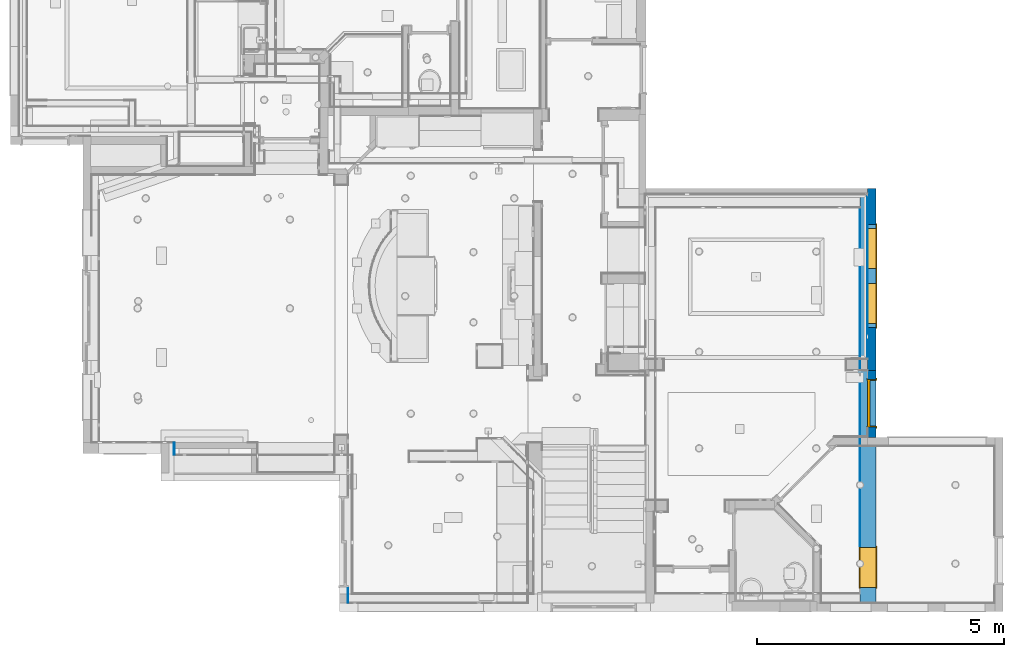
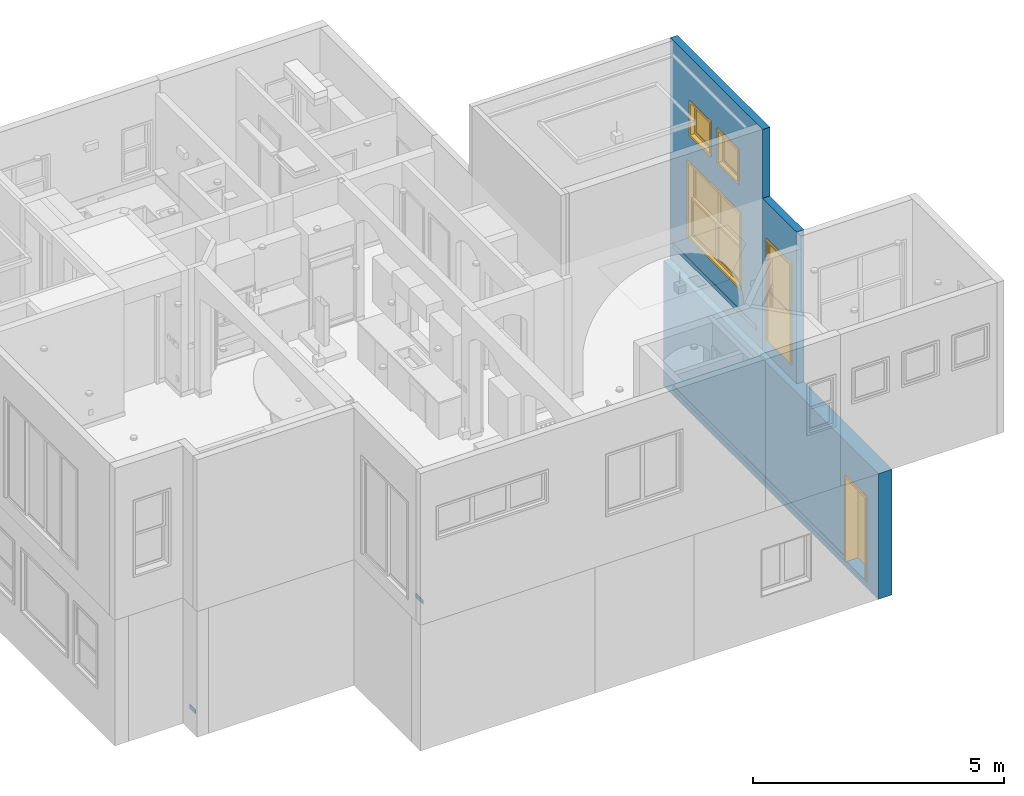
# One storey, part 14 of 60: 7 walls, 3 windows, 2 doors, 5 openings.
"""IFC2X3 building model written with IfcOpenShell, lengths in feet."""

from ifc_helpers import new_model, entity, si_unit, converted_unit, direction, frame, frame_2d, origin, origin_2d_with_axis, place, context, subcontext, project, spatial, polyline, rectangle, outline, extrude, clip, bounded_halfspace, source, transform, mapped, material, material_list, layer, layer_set, layer_usage, type_object, type_shapes, element, fill, save


model = new_model("IFC2X3")

# Units and contexts
model_context = context("Model", 3, precision=0.0001, world=origin(), true_north=direction((6.123031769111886e-17, 1.0)))
plan_context = context("Plan", 3, precision=0.0001, world=origin(), true_north=direction((6.123031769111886e-17, 1.0)))
body_context = subcontext(model_context, "Body", "Model", "MODEL_VIEW")
ifc_project = project(units=[converted_unit("LENGTHUNIT", "FOOT", entity("IfcLengthMeasure", 0.3048), si_unit("LENGTHUNIT", "METRE"), dimensions=[1, 0, 0, 0, 0, 0, 0]), converted_unit("AREAUNIT", "SQUARE FOOT", entity("IfcAreaMeasure", 0.09290304), si_unit("AREAUNIT", "SQUARE_METRE"), dimensions=[2, 0, 0, 0, 0, 0, 0]), converted_unit("PLANEANGLEUNIT", "DEGREE", entity("IfcPlaneAngleMeasure", 0.017453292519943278), si_unit("PLANEANGLEUNIT", "RADIAN"), dimensions=[0, 0, 0, 0, 0, 0, 0])], contexts=[model_context, plan_context])

# Site, building, storey
site_placement = place(None, origin())
site = spatial("IfcSite", under=ifc_project, at=site_placement, Name="Default", CompositionType="ELEMENT")
building_placement = place(site_placement, origin())
building = spatial("IfcBuilding", under=site, at=building_placement, CompositionType="ELEMENT")
storey_placement = place(building_placement, origin())
storey = spatial("IfcBuildingStorey", under=building, at=storey_placement, Name="First floor", CompositionType="ELEMENT", Elevation=0.0)

# Wall, opening, door
ifc_material_1 = material(Name="Default New Material")
ifc_layer_1 = layer(ifc_material_1, 0.5416666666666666)
ifc_layer_set_1 = layer_set([ifc_layer_1], Name="Basic Wall:Wall_6.5\"")
ifc_layer_usage_1 = layer_usage(ifc_layer_set_1, "AXIS2", "POSITIVE", -0.2708333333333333)
wall_type_1 = type_object("IfcWallType", Name="Basic Wall:Wall_6.5\"", PredefinedType="STANDARD", material=ifc_layer_set_1)
wall_1_placement = place(storey_placement, frame((35.39583333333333, 11.562500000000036, 9.541666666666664), z_axis=(0.0, 0.0, 1.0), x_axis=(0.0, 1.0, 0.0)))
wall_1 = element("IfcWallStandardCase", 1, at=wall_1_placement, inside=storey, type_object=wall_type_1, material=ifc_layer_usage_1, Name="Basic Wall:Wall_6.5\"", ObjectType="Basic Wall:Wall_6.5\"", context=body_context, shape_type="SweptSolid", body=[
    extrude(rectangle(XDim=4.458333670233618, YDim=0.5416666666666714, at=frame_2d((2.229166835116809, -2.220446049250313e-16), x_axis=(-1.0, 0.0))), origin(), (0.0, 0.0, 1.0), 12.125),
])
opening_1_placement = place(wall_1_placement, frame((0.6874999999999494, -0.27083333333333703, 1.1250000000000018)))
opening_1 = element("IfcOpeningElement", 2, at=opening_1_placement, cuts=wall_1, Name="C_Single Door Glass:3'-0\" X 8'-0\":1", ObjectType="Opening", context=body_context, shape_type="SweptSolid", body=[
    extrude(rectangle(XDim=3.166666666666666, YDim=8.083333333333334, at=frame_2d((4.041666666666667, 1.583333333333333), x_axis=(0.0, 1.0))), frame((0.0, 0.0, 0.0), z_axis=(0.0, 1.0, 0.0), x_axis=(0.0, 0.0, 1.0)), (0.0, 0.0, 1.0), 0.5416666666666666),
])
ifc_material_2 = material(Name="Glass")
ifc_material_list_1 = material_list([ifc_material_2, ifc_material_1])
door_style_1 = type_object("IfcDoorStyle", Name="C_Single Door Glass:3'-0\" X 8'-0\"", ConstructionType="NOTDEFINED", OperationType="SINGLE_SWING_RIGHT", ParameterTakesPrecedence=False, Sizeable=False, material=ifc_material_list_1)
shared_shape_1 = source(origin(), body_context, "Body", "SweptSolid", [
    extrude(rectangle(XDim=2.6666666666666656, YDim=0.04166666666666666, at=frame_2d((0.0, 1.3877787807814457e-17), x_axis=(1.0, 0.0))), frame((1.5833333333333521, 0.08333333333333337, 4.0), z_axis=(0.0, 0.0, 1.0), x_axis=(-1.0, 0.0, 0.0)), (0.0, 0.0, 1.0), 3.8333333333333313),
    extrude(outline(polyline([(-4.0, -1.4999999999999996), (4.0, -1.4999999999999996), (4.0, 1.4999999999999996), (-4.0, 1.4999999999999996), (-4.0, -1.4999999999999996)]), holes=[polyline([(-3.833333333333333, 1.3333333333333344), (0.0, 1.3333333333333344), (0.0, -1.3333333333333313), (-3.833333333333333, -1.3333333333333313), (-3.833333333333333, 1.3333333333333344)])]), frame((1.5833333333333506, 0.16666666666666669, 4.0), z_axis=(0.0, -1.0, 0.0), x_axis=(0.0, 0.0, -1.0)), (0.0, 0.0, 1.0), 0.16666666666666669),
    extrude(outline(polyline([(-3.958333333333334, 1.4999999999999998), (4.041666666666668, 1.4999999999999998), (4.041666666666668, 1.6666666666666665), (-4.125000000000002, 1.6666666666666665), (-4.125000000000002, -1.6666666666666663), (4.041666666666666, -1.6666666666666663), (4.041666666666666, -1.4999999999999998), (-3.958333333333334, -1.4999999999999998), (-3.958333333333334, 1.4999999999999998)])), frame((1.5833333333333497, 0.0, 4.041666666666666), z_axis=(0.0, -1.0, 0.0), x_axis=(0.0, 0.0, -1.0)), (0.0, 0.0, 1.0), 0.0625),
    extrude(outline(polyline([(-3.958333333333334, 1.4999999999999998), (4.041666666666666, 1.4999999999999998), (4.041666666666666, 1.6666666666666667), (-4.125, 1.6666666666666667), (-4.125, -1.6666666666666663), (4.041666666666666, -1.6666666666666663), (4.041666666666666, -1.5000000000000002), (-3.958333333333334, -1.5000000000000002), (-3.958333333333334, 1.4999999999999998)])), frame((1.5833333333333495, 0.6041666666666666, 4.041666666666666), z_axis=(0.0, -1.0, 0.0), x_axis=(0.0, 0.0, -1.0)), (0.0, 0.0, 1.0), 0.0625),
    extrude(outline(polyline([(1.4999999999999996, -4.020833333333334), (1.5833333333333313, -4.020833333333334), (1.5833333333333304, 4.062499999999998), (-1.5833333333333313, 4.0625), (-1.5833333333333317, -4.020833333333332), (-1.5, -4.020833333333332), (-1.5, 3.979166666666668), (1.4999999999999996, 3.979166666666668), (1.4999999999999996, -4.020833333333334)])), frame((1.58333333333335, 0.5416666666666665, 4.020833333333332), z_axis=(0.0, -1.0, 0.0), x_axis=(1.0, 0.0, 0.0)), (0.0, 0.0, 1.0), 0.5416666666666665),
])
type_shapes(door_style_1, [shared_shape_1])
door_1_placement = place(opening_1_placement, frame((3.166666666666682, 0.5416666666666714, 0.0), z_axis=(0.0, 0.0, 1.0), x_axis=(-1.0, 0.0, 0.0)))
door_1 = element("IfcDoor", 3, at=door_1_placement, inside=storey, type_object=door_style_1, material=ifc_material_list_1, Name="C_Single Door Glass:3'-0\" X 8'-0\"", ObjectType="C_Single Door Glass:3'-0\" X 8'-0\"", OverallHeight=8.083333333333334, OverallWidth=3.166666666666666, context=body_context, shape_type="MappedRepresentation", body=[
    mapped(shared_shape_1, transform((0.0, 0.0, 0.0), scale=1.0)),
])
fill(opening_1, door_1)

# Wall, openings, windows
ifc_layer_usage_2 = layer_usage(ifc_layer_set_1, "AXIS2", "POSITIVE", -0.2708333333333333)
wall_2_placement = place(storey_placement, frame((35.395833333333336, 16.020833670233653, 9.541666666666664), z_axis=(0.0, 0.0, 1.0), x_axis=(0.0, 1.0, 0.0)))
wall_2 = element("IfcWallStandardCase", 4, at=wall_2_placement, inside=storey, type_object=wall_type_1, material=ifc_layer_usage_2, Name="Basic Wall:Wall_6.5\"", ObjectType="Basic Wall:Wall_6.5\"", context=body_context, shape_type="SweptSolid", body=[
    extrude(rectangle(XDim=12.10416632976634, YDim=0.5416666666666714, at=frame_2d((6.05208316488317, 1.942890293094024e-16), x_axis=(-1.0, 0.0))), origin(), (0.0, 0.0, 1.0), 17.624999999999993),
])
opening_2_placement = place(wall_2_placement, frame((5.770833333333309, 0.2708333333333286, 11.458333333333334)))
opening_2 = element("IfcOpeningElement", 5, at=opening_2_placement, cuts=wall_2, Name="C_Single Window:2'-6\" X 2'-6\":1", ObjectType="Opening", context=body_context, shape_type="SweptSolid", body=[
    extrude(rectangle(XDim=2.666666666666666, YDim=2.666666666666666, at=frame_2d((1.333333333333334, 1.333333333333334), x_axis=(-1.0, 0.0))), frame((0.0, 0.0, 0.0), z_axis=(0.0, -1.0, 0.0), x_axis=(0.0, 0.0, 1.0)), (0.0, 0.0, 1.0), 0.5416666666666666),
])
opening_3_placement = place(wall_2_placement, frame((9.687540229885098, 0.27083333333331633, 3.20833333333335)))
opening_3 = element("IfcOpeningElement", 6, at=opening_3_placement, cuts=wall_2, Name="C_Double Window Guilotine:6'-8\" X 5'-10\":1", ObjectType="Opening", context=body_context, shape_type="SweptSolid", body=[
    extrude(rectangle(XDim=6.833333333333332, YDim=6.0, at=frame_2d((3.0, 3.416666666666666), x_axis=(0.0, -1.0))), frame((0.0, 0.0, 0.0), z_axis=(0.0, -1.0, 0.0), x_axis=(0.0, 0.0, 1.0)), (0.0, 0.0, 1.0), 0.5416666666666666),
])
opening_4_placement = place(wall_2_placement, frame((9.43421882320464, 0.2708333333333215, 11.458333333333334)))
opening_4 = element("IfcOpeningElement", 7, at=opening_4_placement, cuts=wall_2, Name="C_Single Window:2'-6\" X 2'-6\":1", ObjectType="Opening", context=body_context, shape_type="SweptSolid", body=[
    extrude(rectangle(XDim=2.666666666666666, YDim=2.666666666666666, at=frame_2d((1.333333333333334, 1.333333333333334), x_axis=(-1.0, 0.0))), frame((0.0, 0.0, 0.0), z_axis=(0.0, -1.0, 0.0), x_axis=(0.0, 0.0, 1.0)), (0.0, 0.0, 1.0), 0.5416666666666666),
])
ifc_material_list_2 = material_list([ifc_material_1, ifc_material_2])
window_style_1 = type_object("IfcWindowStyle", Name="C_Double Window Guilotine:6'-8\" X 5'-10\"", ConstructionType="NOTDEFINED", OperationType="NOTDEFINED", ParameterTakesPrecedence=False, Sizeable=False, material=ifc_material_list_2)
shared_shape_2 = source(origin(), body_context, "Body", "SweptSolid", [
    extrude(outline(polyline([(-1.666666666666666, -1.5000000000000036), (1.666666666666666, -1.5000000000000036), (1.666666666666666, 1.5000000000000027), (-1.666666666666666, 1.5000000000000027), (-1.666666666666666, -1.5000000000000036)]), holes=[polyline([(-1.4999999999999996, -1.3333333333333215), (-1.4999999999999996, 1.3333333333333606), (1.5, 1.3333333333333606), (1.5, -1.3333333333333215), (-1.4999999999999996, -1.3333333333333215)])]), frame((1.7500000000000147, 0.5000000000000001, 4.416666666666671), z_axis=(0.0, -1.0, 0.0), x_axis=(-1.0, 0.0, 0.0)), (0.0, 0.0, 1.0), 0.16666666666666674),
    extrude(rectangle(XDim=0.0416666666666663, YDim=0.0416666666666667, at=frame_2d((0.0, 2.0816681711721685e-17), x_axis=(1.0, 0.0))), frame((2.2500000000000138, 0.41666666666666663, 3.0833333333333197)), (0.0, 0.0, 1.0), 2.666666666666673),
    extrude(rectangle(XDim=0.04166666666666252, YDim=0.0416666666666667, at=frame_2d((2.220446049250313e-16, 2.0816681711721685e-17), x_axis=(1.0, 0.0))), frame((1.2500000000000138, 0.41666666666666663, 3.083333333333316)), (0.0, 0.0, 1.0), 2.6666666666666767),
    extrude(rectangle(XDim=3.0, YDim=0.041666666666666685, at=frame_2d((1.1102230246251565e-16, 0.0), x_axis=(1.0, 0.0))), frame((1.7500000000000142, 0.41666666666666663, 3.083333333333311)), (0.0, 0.0, 1.0), 2.666666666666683),
    extrude(rectangle(XDim=2.9999999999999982, YDim=0.04166666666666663, at=frame_2d((-1.1102230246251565e-16, 0.0), x_axis=(1.0, 0.0))), frame((1.7500000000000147, 0.25, 2.0069444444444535)), (0.0, 0.0, 1.0), 0.04166666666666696),
    extrude(rectangle(XDim=3.0, YDim=0.04166666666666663, at=origin_2d_with_axis()), frame((1.7500000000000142, 0.25, 1.118055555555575)), (0.0, 0.0, 1.0), 0.04166666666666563),
    extrude(rectangle(XDim=0.04166666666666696, YDim=0.04166666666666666, at=origin_2d_with_axis()), frame((2.2500000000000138, 0.25, 0.24999999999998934)), (0.0, 0.0, 1.0), 2.6666666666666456),
    extrude(rectangle(XDim=0.04166666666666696, YDim=0.04166666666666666, at=origin_2d_with_axis()), frame((1.2500000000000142, 0.25, 0.24999999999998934)), (0.0, 0.0, 1.0), 2.6666666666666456),
    extrude(rectangle(XDim=2.9999999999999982, YDim=0.04166666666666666, at=origin_2d_with_axis()), frame((1.7500000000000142, 0.25, 0.24999999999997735)), (0.0, 0.0, 1.0), 2.666666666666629),
    extrude(outline(polyline([(-1.5000000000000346, -1.6666666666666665), (1.5000000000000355, -1.6666666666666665), (1.5000000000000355, 1.6666666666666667), (-1.5000000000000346, 1.6666666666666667), (-1.5000000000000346, -1.6666666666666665)]), holes=[polyline([(-1.3333333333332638, 1.4999999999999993), (1.3333333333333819, 1.4999999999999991), (1.3333333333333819, -1.5000000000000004), (-1.3333333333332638, -1.4999999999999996), (-1.3333333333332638, 1.4999999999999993)])]), frame((1.750000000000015, 0.33333333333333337, 1.5833333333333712), z_axis=(0.0, -1.0, 0.0), x_axis=(0.0, 0.0, -1.0)), (0.0, 0.0, 1.0), 0.16666666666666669),
    extrude(rectangle(XDim=3.0000000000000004, YDim=0.0416666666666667, at=frame_2d((1.1102230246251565e-16, 2.0816681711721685e-17), x_axis=(1.0, 0.0))), frame((1.7500000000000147, 0.41666666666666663, 4.840277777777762)), (0.0, 0.0, 1.0), 0.04166666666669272),
    extrude(rectangle(XDim=3.0, YDim=0.0416666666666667, at=frame_2d((-1.1102230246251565e-16, 2.0816681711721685e-17), x_axis=(1.0, 0.0))), frame((1.7500000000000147, 0.41666666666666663, 3.951388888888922)), (0.0, 0.0, 1.0), 0.04166666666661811),
    extrude(outline(polyline([(-1.666666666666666, -1.5000000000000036), (1.666666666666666, -1.5000000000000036), (1.6666666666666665, 1.5000000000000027), (-1.666666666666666, 1.5000000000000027), (-1.666666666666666, -1.5000000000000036)]), holes=[polyline([(-1.4999999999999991, -1.3333333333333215), (-1.4999999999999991, 1.3333333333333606), (1.5, 1.3333333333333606), (1.5, -1.3333333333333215), (-1.4999999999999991, -1.3333333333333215)])]), frame((5.083333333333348, 0.5000000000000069, 4.416666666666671), z_axis=(0.0, -1.0, 0.0), x_axis=(-1.0, 0.0, 0.0)), (0.0, 0.0, 1.0), 0.16666666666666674),
    extrude(rectangle(XDim=0.041666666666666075, YDim=0.041666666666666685, at=frame_2d((0.0, 1.3877787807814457e-17), x_axis=(1.0, 0.0))), frame((5.583333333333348, 0.4166666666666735, 3.0833333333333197)), (0.0, 0.0, 1.0), 2.666666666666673),
    extrude(rectangle(XDim=0.041666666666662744, YDim=0.041666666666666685, at=frame_2d((-1.1102230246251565e-16, 1.3877787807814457e-17), x_axis=(1.0, 0.0))), frame((4.583333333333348, 0.4166666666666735, 3.083333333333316)), (0.0, 0.0, 1.0), 2.6666666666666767),
    extrude(rectangle(XDim=3.0000000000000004, YDim=0.041666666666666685, at=frame_2d((2.220446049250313e-16, 0.0), x_axis=(1.0, 0.0))), frame((5.083333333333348, 0.4166666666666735, 3.083333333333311)), (0.0, 0.0, 1.0), 2.666666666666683),
    extrude(rectangle(XDim=2.9999999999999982, YDim=0.04166666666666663, at=origin_2d_with_axis()), frame((5.083333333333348, 0.2500000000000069, 2.0069444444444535)), (0.0, 0.0, 1.0), 0.04166666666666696),
    extrude(rectangle(XDim=3.0, YDim=0.04166666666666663, at=origin_2d_with_axis()), frame((5.083333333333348, 0.2500000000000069, 1.118055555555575)), (0.0, 0.0, 1.0), 0.04166666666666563),
    extrude(rectangle(XDim=0.04166666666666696, YDim=0.04166666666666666, at=origin_2d_with_axis()), frame((5.583333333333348, 0.2500000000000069, 0.24999999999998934)), (0.0, 0.0, 1.0), 2.6666666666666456),
    extrude(rectangle(XDim=0.04166666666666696, YDim=0.04166666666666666, at=frame_2d((-1.1102230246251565e-16, 0.0), x_axis=(1.0, 0.0))), frame((4.583333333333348, 0.2500000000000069, 0.24999999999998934)), (0.0, 0.0, 1.0), 2.6666666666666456),
    extrude(rectangle(XDim=2.9999999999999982, YDim=0.04166666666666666, at=origin_2d_with_axis()), frame((5.083333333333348, 0.2500000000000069, 0.24999999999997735)), (0.0, 0.0, 1.0), 2.666666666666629),
    extrude(outline(polyline([(-1.5000000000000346, -1.6666666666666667), (1.5000000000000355, -1.6666666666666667), (1.5000000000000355, 1.6666666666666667), (-1.5000000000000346, 1.6666666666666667), (-1.5000000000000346, -1.6666666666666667)]), holes=[polyline([(-1.3333333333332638, 1.4999999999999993), (1.3333333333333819, 1.499999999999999), (1.3333333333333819, -1.5000000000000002), (-1.3333333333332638, -1.4999999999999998), (-1.3333333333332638, 1.4999999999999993)])]), frame((5.083333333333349, 0.3333333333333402, 1.5833333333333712), z_axis=(0.0, -1.0, 0.0), x_axis=(0.0, 0.0, -1.0)), (0.0, 0.0, 1.0), 0.16666666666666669),
    extrude(rectangle(XDim=3.0, YDim=0.041666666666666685, at=frame_2d((0.0, 1.3877787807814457e-17), x_axis=(1.0, 0.0))), frame((5.083333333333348, 0.4166666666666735, 4.840277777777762)), (0.0, 0.0, 1.0), 0.04166666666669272),
    extrude(rectangle(XDim=3.0, YDim=0.041666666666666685, at=frame_2d((0.0, 1.3877787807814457e-17), x_axis=(1.0, 0.0))), frame((5.083333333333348, 0.4166666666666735, 3.951388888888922)), (0.0, 0.0, 1.0), 0.04166666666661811),
    extrude(outline(polyline([(-3.500000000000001, -3.083333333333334), (3.500000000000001, -3.083333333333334), (3.500000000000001, 3.083333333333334), (-3.500000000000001, 3.083333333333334), (-3.500000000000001, -3.083333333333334)]), holes=[polyline([(-3.3333333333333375, -2.9166666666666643), (-3.333333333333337, 2.916666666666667), (3.3333333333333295, 2.916666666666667), (3.3333333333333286, -2.9166666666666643), (-3.3333333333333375, -2.9166666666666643)])]), frame((3.416666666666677, 0.0, 3.0), z_axis=(0.0, -1.0, 0.0), x_axis=(-1.0, 0.0, 0.0)), (0.0, 0.0, 1.0), 0.0625),
    extrude(outline(polyline([(-3.4999999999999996, -3.083333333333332), (3.4999999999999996, -3.083333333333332), (3.4999999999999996, 3.083333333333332), (-3.4999999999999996, 3.083333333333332), (-3.4999999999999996, -3.083333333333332)]), holes=[polyline([(-3.333333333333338, -2.916666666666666), (-3.3333333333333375, 2.916666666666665), (3.333333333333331, 2.916666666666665), (3.33333333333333, -2.916666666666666), (-3.333333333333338, -2.916666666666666)])]), frame((3.416666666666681, 0.6041666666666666, 3.0), z_axis=(0.0, -1.0, 0.0), x_axis=(-1.0, 0.0, 0.0)), (0.0, 0.0, 1.0), 0.0625),
    extrude(outline(polyline([(-3.0, -3.4166666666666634), (3.0, -3.416666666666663), (3.0, 3.4166666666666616), (-3.0, 3.4166666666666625), (-3.0, -3.4166666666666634)]), holes=[polyline([(-2.916666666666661, 3.333333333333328), (2.916666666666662, 3.333333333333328), (2.9166666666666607, -3.3333333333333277), (-2.916666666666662, -3.3333333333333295), (-2.916666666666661, 3.333333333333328)])]), frame((3.4166666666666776, 0.5416666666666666, 3.0), z_axis=(0.0, -1.0, 0.0), x_axis=(0.0, 0.0, -1.0)), (0.0, 0.0, 1.0), 0.5416666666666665),
])
type_shapes(window_style_1, [shared_shape_2])
window_1_placement = place(opening_3_placement, frame((0.0, 0.0, 0.0), z_axis=(0.0, 0.0, 1.0), x_axis=(-1.0, 0.0, 0.0)))
window_1 = element("IfcWindow", 8, at=window_1_placement, inside=storey, type_object=window_style_1, material=ifc_material_list_2, Name="C_Double Window Guilotine:6'-8\" X 5'-10\"", ObjectType="C_Double Window Guilotine:6'-8\" X 5'-10\"", OverallHeight=6.0, OverallWidth=6.833333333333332, context=body_context, shape_type="MappedRepresentation", body=[
    mapped(shared_shape_2, transform((0.0, 0.0, 0.0), scale=1.0)),
])
fill(opening_3, window_1)
window_style_2 = type_object("IfcWindowStyle", Name="C_Single Window:2'-6\" X 2'-6\"", ConstructionType="NOTDEFINED", OperationType="NOTDEFINED", ParameterTakesPrecedence=False, Sizeable=False, material=ifc_material_list_2)
shared_shape_3 = source(origin(), body_context, "Body", "SweptSolid", [
    extrude(rectangle(XDim=0.04166666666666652, YDim=0.04166666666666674, at=origin_2d_with_axis()), frame((1.6944444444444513, 0.33333333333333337, 0.24999999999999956), z_axis=(0.0, 0.0, 1.0), x_axis=(0.0, -1.0, 0.0)), (0.0, 0.0, 1.0), 2.1666666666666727),
    extrude(rectangle(XDim=0.04166666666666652, YDim=0.04166666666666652, at=origin_2d_with_axis()), frame((0.9722222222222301, 0.33333333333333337, 0.24999999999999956), z_axis=(0.0, 0.0, 1.0), x_axis=(0.0, -1.0, 0.0)), (0.0, 0.0, 1.0), 2.1666666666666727),
    extrude(rectangle(XDim=0.04166666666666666, YDim=2.1666666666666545, at=origin_2d_with_axis()), frame((1.3333333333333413, 0.3333333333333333, 0.951388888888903), z_axis=(0.0, 0.0, 1.0), x_axis=(0.0, 1.0, 0.0)), (0.0, 0.0, 1.0), 0.041666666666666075),
    extrude(rectangle(XDim=0.04166666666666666, YDim=2.166666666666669, at=origin_2d_with_axis()), frame((1.3333333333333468, 0.3333333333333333, 1.6736111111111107), z_axis=(0.0, 0.0, 1.0), x_axis=(0.0, 1.0, 0.0)), (0.0, 0.0, 1.0), 0.041666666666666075),
    extrude(rectangle(XDim=0.04166666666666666, YDim=2.166666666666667, at=origin_2d_with_axis()), frame((1.3333333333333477, 0.3333333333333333, 0.24999999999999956), z_axis=(0.0, 0.0, 1.0), x_axis=(0.0, 1.0, 0.0)), (0.0, 0.0, 1.0), 2.1666666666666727),
    extrude(outline(polyline([(-1.2500000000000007, -1.2500000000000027), (1.2500000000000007, -1.2500000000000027), (1.2500000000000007, 1.2500000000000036), (-1.2500000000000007, 1.2500000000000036), (-1.2500000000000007, -1.2500000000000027)]), holes=[polyline([(1.0833333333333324, -1.0833333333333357), (-1.0833333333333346, -1.0833333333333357), (-1.0833333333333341, 1.083333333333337), (1.0833333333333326, 1.083333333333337), (1.0833333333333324, -1.0833333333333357)])]), frame((1.3333333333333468, 0.4166666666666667, 1.3333333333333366), z_axis=(0.0, -1.0, 0.0), x_axis=(-1.0, 0.0, 0.0)), (0.0, 0.0, 1.0), 0.16666666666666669),
    extrude(outline(polyline([(-1.4166666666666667, -1.4166666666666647), (1.4166666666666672, -1.4166666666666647), (1.4166666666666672, 1.4166666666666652), (-1.416666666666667, 1.4166666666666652), (-1.4166666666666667, -1.4166666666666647)]), holes=[polyline([(-1.2500000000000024, -1.2500000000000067), (-1.2500000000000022, 1.2499999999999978), (1.2499999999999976, 1.2499999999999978), (1.2499999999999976, -1.2500000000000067), (-1.2500000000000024, -1.2500000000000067)])]), frame((1.3333333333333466, 0.0, 1.3333333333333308), z_axis=(0.0, -1.0, 0.0), x_axis=(-1.0, 0.0, 0.0)), (0.0, 0.0, 1.0), 0.0625),
    extrude(outline(polyline([(-1.4166666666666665, -1.416666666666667), (1.4166666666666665, -1.416666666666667), (1.4166666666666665, 1.4166666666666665), (-1.4166666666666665, 1.4166666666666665), (-1.4166666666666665, -1.416666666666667)]), holes=[polyline([(-1.2500000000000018, -1.25), (-1.250000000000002, 1.25), (1.2499999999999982, 1.25), (1.2499999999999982, -1.25), (-1.2500000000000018, -1.25)])]), frame((1.3333333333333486, 0.6041666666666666, 1.333333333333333), z_axis=(0.0, -1.0, 0.0), x_axis=(-1.0, 0.0, 0.0)), (0.0, 0.0, 1.0), 0.0625),
    extrude(outline(polyline([(-1.3333333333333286, -1.3333333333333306), (1.3333333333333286, -1.3333333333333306), (1.3333333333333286, 1.3333333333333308), (-1.3333333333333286, 1.3333333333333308), (-1.3333333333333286, -1.3333333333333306)]), holes=[polyline([(-1.2499999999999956, 1.2499999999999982), (1.2499999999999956, 1.2499999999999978), (1.2499999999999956, -1.2499999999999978), (-1.2499999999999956, -1.2499999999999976), (-1.2499999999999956, 1.2499999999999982)])]), frame((1.3333333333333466, 0.5416666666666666, 1.3333333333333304), z_axis=(0.0, -1.0, 0.0), x_axis=(0.0, 0.0, -1.0)), (0.0, 0.0, 1.0), 0.5416666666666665),
])
type_shapes(window_style_2, [shared_shape_3])
window_2_placement = place(opening_2_placement, frame((0.0, 0.0, 0.0), z_axis=(0.0, 0.0, 1.0), x_axis=(-1.0, 0.0, 0.0)))
window_2 = element("IfcWindow", 9, at=window_2_placement, inside=storey, type_object=window_style_2, material=ifc_material_list_2, Name="C_Single Window:2'-6\" X 2'-6\"", ObjectType="C_Single Window:2'-6\" X 2'-6\"", OverallHeight=2.6666666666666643, OverallWidth=2.6666666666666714, context=body_context, shape_type="MappedRepresentation", body=[
    mapped(shared_shape_3, transform((0.0, 0.0, 0.0), scale=1.0)),
])
fill(opening_2, window_2)
window_3_placement = place(opening_4_placement, frame((0.0, 0.0, 0.0), z_axis=(0.0, 0.0, 1.0), x_axis=(-1.0, 0.0, 0.0)))
window_3 = element("IfcWindow", 10, at=window_3_placement, inside=storey, type_object=window_style_2, material=ifc_material_list_2, Name="C_Single Window:2'-6\" X 2'-6\"", ObjectType="C_Single Window:2'-6\" X 2'-6\"", OverallHeight=2.6666666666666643, OverallWidth=2.6666666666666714, context=body_context, shape_type="MappedRepresentation", body=[
    mapped(shared_shape_3, transform((0.0, 0.0, 0.0), scale=1.0)),
])
fill(opening_4, window_3)

# Wall, opening, door
ifc_layer_2 = layer(ifc_material_1, 1.0416666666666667)
ifc_layer_set_2 = layer_set([ifc_layer_2], Name="Basic Wall:Wall_1'1/2\"")
ifc_layer_usage_3 = layer_usage(ifc_layer_set_2, "AXIS2", "POSITIVE", -0.5208333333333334)
wall_type_2 = type_object("IfcWallType", Name="Basic Wall:Wall_1'1/2\"", PredefinedType="STANDARD", material=ifc_layer_set_2)
wall_3_placement = place(storey_placement, frame((35.14583333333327, 0.0, -0.5), z_axis=(0.0, 0.0, 1.0), x_axis=(0.0, 1.0, 0.0)))
wall_3 = element("IfcWallStandardCase", 11, at=wall_3_placement, inside=storey, type_object=wall_type_2, material=ifc_layer_usage_3, Name="Basic Wall:Wall_1'1/2\"", ObjectType="Basic Wall:Wall_1'1/2\"", context=body_context, shape_type="SweptSolid", body=[
    extrude(rectangle(XDim=28.12500000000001, YDim=1.0416666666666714, at=frame_2d((14.062500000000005, 0.0), x_axis=(-1.0, 0.0))), origin(), (0.0, 0.0, 1.0), 10.041666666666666),
])
opening_5_placement = place(wall_3_placement, frame((4.249999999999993, 0.5208333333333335, 0.5)))
opening_5 = element("IfcOpeningElement", 12, at=opening_5_placement, cuts=wall_3, Name="C_Single Door:2'-6\" X 6'-8\":1", ObjectType="Opening", context=body_context, shape_type="SweptSolid", body=[
    extrude(rectangle(XDim=2.666666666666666, YDim=6.75, at=frame_2d((3.375, 1.3333333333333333), x_axis=(0.0, -1.0))), frame((0.0, 0.0, 0.0), z_axis=(0.0, -1.0, 0.0), x_axis=(0.0, 0.0, 1.0)), (0.0, 0.0, 1.0), 1.0416666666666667),
])
door_style_2 = type_object("IfcDoorStyle", Name="C_Single Door:2'-6\" X 6'-8\"", ConstructionType="NOTDEFINED", OperationType="SINGLE_SWING_LEFT", ParameterTakesPrecedence=False, Sizeable=False, material=ifc_material_1)
shared_shape_4 = source(origin(), body_context, "Body", "SweptSolid", [
    extrude(rectangle(XDim=0.16666666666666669, YDim=2.499999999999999, at=frame_2d((-2.7755575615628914e-17, 0.0), x_axis=(1.0, 0.0))), frame((1.3333333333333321, 0.08333333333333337, 0.0), z_axis=(0.0, 0.0, 1.0), x_axis=(0.0, 1.0, 0.0)), (0.0, 0.0, 1.0), 6.666666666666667),
    extrude(outline(polyline([(-3.291666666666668, 1.2499999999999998), (3.3750000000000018, 1.2499999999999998), (3.3750000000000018, 1.4166666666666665), (-3.458333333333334, 1.4166666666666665), (-3.458333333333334, -1.4166666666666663), (3.375, -1.4166666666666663), (3.375, -1.2499999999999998), (-3.291666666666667, -1.2499999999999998), (-3.291666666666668, 1.2499999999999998)])), frame((1.333333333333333, -0.0625, 3.375), z_axis=(0.0, 1.0, 0.0), x_axis=(0.0, 0.0, -1.0)), (0.0, 0.0, 1.0), 0.0625),
    extrude(outline(polyline([(-3.2916666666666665, 1.2499999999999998), (3.3750000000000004, 1.2499999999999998), (3.3750000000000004, 1.4166666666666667), (-3.4583333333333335, 1.4166666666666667), (-3.4583333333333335, -1.4166666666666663), (3.3750000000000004, -1.4166666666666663), (3.3750000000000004, -1.2500000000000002), (-3.2916666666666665, -1.2500000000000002), (-3.2916666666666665, 1.2499999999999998)])), frame((1.3333333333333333, 1.0416666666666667, 3.3750000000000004), z_axis=(0.0, 1.0, 0.0), x_axis=(0.0, 0.0, -1.0)), (0.0, 0.0, 1.0), 0.0625),
    extrude(outline(polyline([(-3.3541666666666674, -1.3333333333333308), (3.3958333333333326, -1.3333333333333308), (3.3958333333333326, 1.3333333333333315), (-3.3541666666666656, 1.3333333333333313), (-3.3541666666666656, 1.2499999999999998), (3.3125000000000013, 1.2499999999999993), (3.3125000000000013, -1.2499999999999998), (-3.3541666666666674, -1.2499999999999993), (-3.3541666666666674, -1.3333333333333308)])), frame((1.3333333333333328, 0.0, 3.3541666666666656), z_axis=(0.0, 1.0, 0.0), x_axis=(0.0, 0.0, 1.0)), (0.0, 0.0, 1.0), 1.041666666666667),
])
type_shapes(door_style_2, [shared_shape_4])
door_2_placement = place(opening_5_placement, frame((-2.6666666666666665, -1.0416666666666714, 0.0)))
door_2 = element("IfcDoor", 13, at=door_2_placement, inside=storey, type_object=door_style_2, material=ifc_material_1, Name="C_Single Door:2'-6\" X 6'-8\"", ObjectType="C_Single Door:2'-6\" X 6'-8\"", OverallHeight=6.75, OverallWidth=2.6666666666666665, context=body_context, shape_type="MappedRepresentation", body=[
    mapped(shared_shape_4, transform((0.0, 0.0, 0.0), scale=1.0)),
])
fill(opening_5, door_2)

# Walls
ifc_layer_3 = layer(ifc_material_1, 0.041666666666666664)
ifc_layer_set_3 = layer_set([ifc_layer_3], Name="Basic Wall:Wall Border_T1")
ifc_layer_usage_4 = layer_usage(ifc_layer_set_3, "AXIS2", "POSITIVE", -0.020833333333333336)
wall_type_3 = type_object("IfcWallType", Name="Basic Wall:Wall Border_T1", PredefinedType="STANDARD", material=ifc_layer_set_3)
wall_4_placement = place(storey_placement, frame((34.6041666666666, 26.83333333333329, 0.0), z_axis=(0.0, 0.0, 1.0), x_axis=(0.0, -1.0, 0.0)))
element("IfcWallStandardCase", 14, at=wall_4_placement, inside=storey, type_object=wall_type_3, material=ifc_layer_usage_4, Name="Basic Wall:Wall Border_T1", ObjectType="Basic Wall:Wall Border_T1", context=body_context, shape_type="SweptSolid", body=[
    extrude(rectangle(XDim=22.499999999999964, YDim=0.041666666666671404, at=frame_2d((11.249999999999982, -1.5612511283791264e-17), x_axis=(-1.0, 0.0))), origin(), (0.0, 0.0, 1.0), 0.3333333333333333),
])
ifc_layer_usage_5 = layer_usage(ifc_layer_set_3, "AXIS2", "NEGATIVE", 0.020833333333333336)
wall_5_placement = place(storey_placement, frame((-10.979166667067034, 10.416666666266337, 0.0), z_axis=(0.0, 0.0, 1.0), x_axis=(0.0, 1.0, 0.0)))
element("IfcWallStandardCase", 15, at=wall_5_placement, inside=storey, type_object=wall_type_3, material=ifc_layer_usage_5, Name="Basic Wall:Wall Border_T1", ObjectType="Basic Wall:Wall Border_T1", context=body_context, shape_type="Clipping", body=[
    clip(extrude(rectangle(XDim=0.7916666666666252, YDim=0.04166666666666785, at=frame_2d((0.3958333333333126, -4.5102810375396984e-17), x_axis=(-1.0, 0.0))), origin(), (0.0, 0.0, 1.0), 0.3333333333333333), bounded_halfspace(frame((0.7916666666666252, -0.02083333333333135, 0.3333333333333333), z_axis=(-1.0, 0.0, 0.0), x_axis=(0.0, -1.0, 0.0)), True, frame((0.7916666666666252, -0.02083333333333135, 0.3333333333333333), z_axis=(-1.0, 0.0, 0.0), x_axis=(0.0, -1.0, 0.0)), polyline([(0.0, 0.0), (-0.041666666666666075, 0.0), (-0.041666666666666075, -0.3333333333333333), (0.0, -0.3333333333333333), (0.0, 0.0)]))),
])
ifc_layer_usage_6 = layer_usage(ifc_layer_set_3, "AXIS2", "NEGATIVE", 0.020833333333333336)
wall_6_placement = place(storey_placement, frame((0.5625000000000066, 1.541666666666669, 10.666666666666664), z_axis=(0.0, 0.0, 1.0), x_axis=(0.0, -1.0, 0.0)))
element("IfcWallStandardCase", 16, at=wall_6_placement, inside=storey, type_object=wall_type_3, material=ifc_layer_usage_6, Name="Basic Wall:Wall Border_T1", ObjectType="Basic Wall:Wall Border_T1", context=body_context, shape_type="SweptSolid", body=[
    extrude(rectangle(XDim=0.9583333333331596, YDim=0.04166666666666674, at=frame_2d((0.4791666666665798, -1.734723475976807e-17), x_axis=(-1.0, 0.0))), origin(), (0.0, 0.0, 1.0), 0.3333333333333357),
])
ifc_layer_usage_7 = layer_usage(ifc_layer_set_3, "AXIS2", "POSITIVE", -0.020833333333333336)
wall_7_placement = place(storey_placement, frame((35.104166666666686, 27.708333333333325, 10.666666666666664), z_axis=(0.0, 0.0, 1.0), x_axis=(0.0, -1.0, 0.0)))
element("IfcWallStandardCase", 17, at=wall_7_placement, inside=storey, type_object=wall_type_3, material=ifc_layer_usage_7, Name="Basic Wall:Wall Border_T1", ObjectType="Basic Wall:Wall Border_T1", context=body_context, shape_type="SweptSolid", body=[
    extrude(rectangle(XDim=10.91666632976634, YDim=0.041666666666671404, at=frame_2d((5.45833316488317, 0.0), x_axis=(-1.0, 0.0))), origin(), (0.0, 0.0, 1.0), 0.3333333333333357),
])

save(model, "model.ifc")
